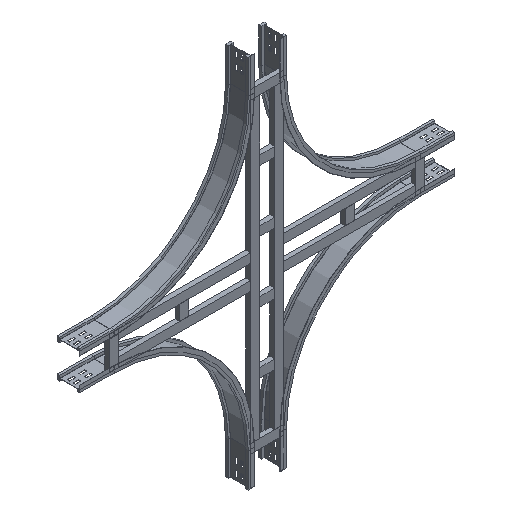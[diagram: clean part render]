
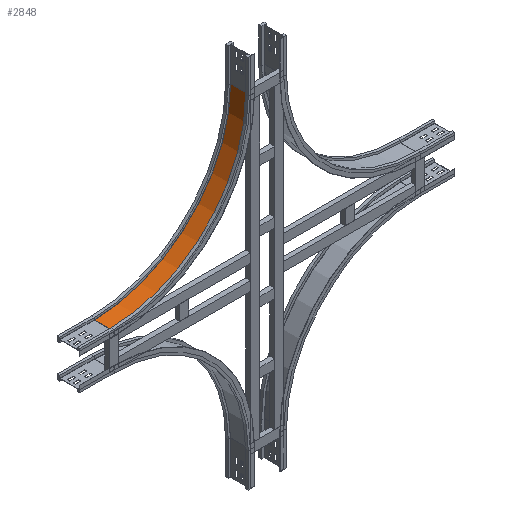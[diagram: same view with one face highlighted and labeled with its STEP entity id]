
A CAD part, isometric view. The second image highlights one B-rep face of the part: STEP entity #2848.
In plain terms, the highlighted cylindrical face has radius 600 mm (diameter 1200 mm), a partial arc.
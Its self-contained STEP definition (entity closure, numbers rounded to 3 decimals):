
#174 = CIRCLE ( 'NONE', #282, 600. ) ;
#282 = AXIS2_PLACEMENT_3D ( 'NONE', #3077, #820, #2830 ) ;
#295 = CARTESIAN_POINT ( 'NONE',  ( 591., 12., -750. ) ) ;
#498 = ORIENTED_EDGE ( 'NONE', *, *, #1405, .T. ) ;
#550 = CYLINDRICAL_SURFACE ( 'NONE', #1632, 600. ) ;
#567 = DIRECTION ( 'NONE',  ( 0., 1., 0. ) ) ;
#820 = DIRECTION ( 'NONE',  ( 0., -1., 0. ) ) ;
#822 = LINE ( 'NONE', #2793, #975 ) ;
#891 = VERTEX_POINT ( 'NONE', #1517 ) ;
#933 = EDGE_CURVE ( 'NONE', #3146, #2797, #822, .T. ) ;
#952 = CARTESIAN_POINT ( 'NONE',  ( 591., 12., -750. ) ) ;
#975 = VECTOR ( 'NONE', #2255, 1000. ) ;
#1030 = CARTESIAN_POINT ( 'NONE',  ( 591., 0., -150. ) ) ;
#1079 = DIRECTION ( 'NONE',  ( 0., 0., -1. ) ) ;
#1161 = CIRCLE ( 'NONE', #2628, 600. ) ;
#1250 = VERTEX_POINT ( 'NONE', #952 ) ;
#1321 = ORIENTED_EDGE ( 'NONE', *, *, #933, .F. ) ;
#1331 = LINE ( 'NONE', #295, #1648 ) ;
#1405 = EDGE_CURVE ( 'NONE', #1250, #891, #1331, .T. ) ;
#1488 = DIRECTION ( 'NONE',  ( -1., 0., 0. ) ) ;
#1517 = CARTESIAN_POINT ( 'NONE',  ( 591., 88., -750. ) ) ;
#1632 = AXIS2_PLACEMENT_3D ( 'NONE', #1030, #3076, #1079 ) ;
#1648 = VECTOR ( 'NONE', #567, 1000. ) ;
#1787 = ORIENTED_EDGE ( 'NONE', *, *, #2457, .T. ) ;
#1987 = DIRECTION ( 'NONE',  ( 0., -1., 0. ) ) ;
#2251 = FACE_OUTER_BOUND ( 'NONE', #2338, .T. ) ;
#2255 = DIRECTION ( 'NONE',  ( 0., 1., 0. ) ) ;
#2279 = CARTESIAN_POINT ( 'NONE',  ( -9., 12., -150. ) ) ;
#2305 = EDGE_CURVE ( 'NONE', #2797, #891, #1161, .T. ) ;
#2318 = ORIENTED_EDGE ( 'NONE', *, *, #2305, .F. ) ;
#2338 = EDGE_LOOP ( 'NONE', ( #2318, #1321, #1787, #498 ) ) ;
#2457 = EDGE_CURVE ( 'NONE', #3146, #1250, #174, .T. ) ;
#2628 = AXIS2_PLACEMENT_3D ( 'NONE', #2997, #1987, #1488 ) ;
#2793 = CARTESIAN_POINT ( 'NONE',  ( -9., 12., -150. ) ) ;
#2797 = VERTEX_POINT ( 'NONE', #3028 ) ;
#2830 = DIRECTION ( 'NONE',  ( -1., 0., 0. ) ) ;
#2848 = ADVANCED_FACE ( 'NONE', ( #2251 ), #550, .F. ) ;
#2997 = CARTESIAN_POINT ( 'NONE',  ( 591., 88., -150. ) ) ;
#3028 = CARTESIAN_POINT ( 'NONE',  ( -9., 88., -150. ) ) ;
#3076 = DIRECTION ( 'NONE',  ( 0., -1., 0. ) ) ;
#3077 = CARTESIAN_POINT ( 'NONE',  ( 591., 12., -150. ) ) ;
#3146 = VERTEX_POINT ( 'NONE', #2279 ) ;
